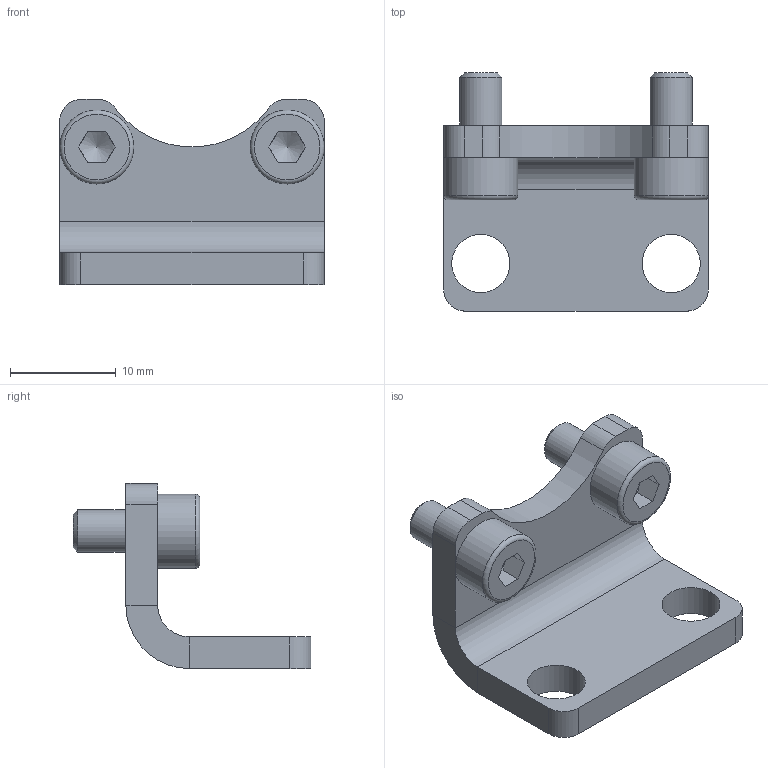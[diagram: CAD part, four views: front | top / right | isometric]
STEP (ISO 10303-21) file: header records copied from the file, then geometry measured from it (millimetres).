
FILE_DESCRIPTION(/* description */ (''),/* implementation_level */ '2;1');
FILE_NAME(/* name */ 'C:\Users\probic.HYPEX\Desktop\3d feldin\izvoz\CAD_108253_B.stp',/* time_stamp */ '2021-01-19T10:13:39+01:00',/* author */ ('Hypex'),/* organization */ ('Hypex'),/* preprocessor_version */ 'ST-DEVELOPER v18',/* originating_system */ 'Autodesk Inventor 2020',/* authorisation */ '');
FILE_SCHEMA (('AUTOMOTIVE_DESIGN { 1 0 10303 214 3 1 1 }'));
Length unit declared in the file: millimetre
Products named in the file (1): CAD_108253_B
Bounding box: 25 x 22.5 x 17.5 mm (x, y, z)
Volume: 2324.9 mm3; surface area: 2224.8 mm2
Topology: 1 solids, 1 shells, 56 faces, 152 edges, 102 vertices
Faces by surface type: plane 31, cylinder 17, torus 4, cone 4
Full cylindrical faces by diameter (mm): 4 x2, 4.5 x2, 5.5 x2, 7 x2
Entity records: 1895 total; most frequent: CARTESIAN_POINT 337, DIRECTION 314, ORIENTED_EDGE 300, EDGE_CURVE 150, AXIS2_PLACEMENT_3D 121, VERTEX_POINT 102, LINE 72, VECTOR 72
